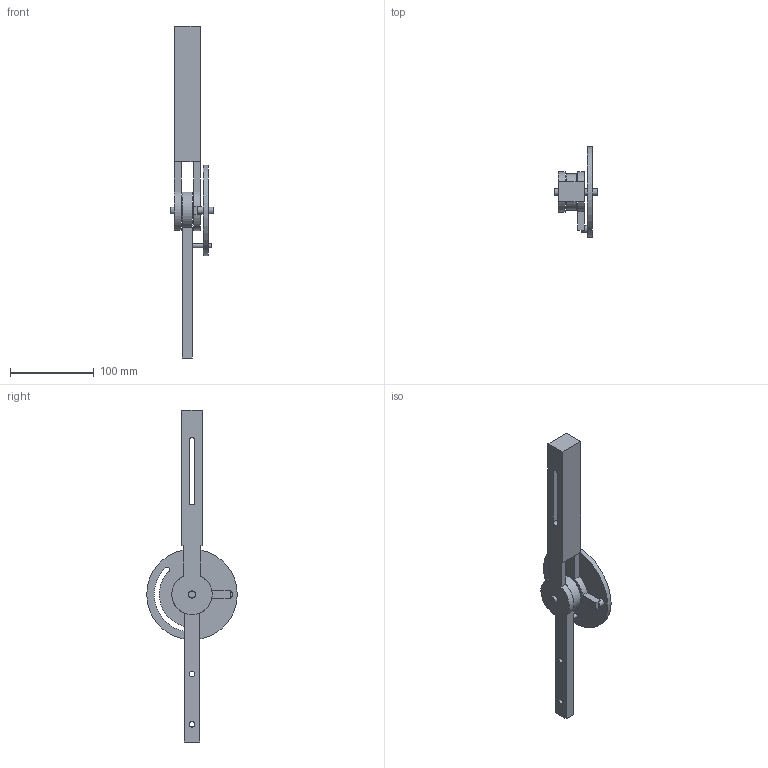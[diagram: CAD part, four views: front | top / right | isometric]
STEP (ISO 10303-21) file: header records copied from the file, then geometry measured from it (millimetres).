
FILE_DESCRIPTION(('Open CASCADE Model'),'2;1');
FILE_NAME('Open CASCADE Shape Model','2026-09-19T23:42:05',('Author'),( 'Open CASCADE'),'Open CASCADE STEP processor 7.9','Open CASCADE 7.9' ,'Unknown');
FILE_SCHEMA(('AUTOMOTIVE_DESIGN { 1 0 10303 214 1 1 1 1 }'));
Length unit declared in the file: millimetre
Products named in the file (6): BENCH_ONLY_NOT_WEARABLE; BENCH_UPPER_CLEVIS_AND_TRACK; BENCH_LOWER_TONGUE_AND_FOLLOWER; BENCH_8mm_GAUGE_PIN; BENCH_WASHER_R; BENCH_WASHER_L
Assembly tree (5 placements, depth 2):
  BENCH_ONLY_NOT_WEARABLE
    BENCH_UPPER_CLEVIS_AND_TRACK
    BENCH_LOWER_TONGUE_AND_FOLLOWER
    BENCH_8mm_GAUGE_PIN
    BENCH_WASHER_R
    BENCH_WASHER_L
Bounding box: 51 x 108 x 396 mm (x, y, z)
Volume: 243329.6 mm3; surface area: 73439.9 mm2
Topology: 5 solids, 5 shells, 144 faces, 396 edges, 264 vertices
Faces by surface type: plane 122, cylinder 22
Full cylindrical faces by diameter (mm): 5 x1, 6.6 x2, 8 x1, 8.6 x1, 8.7 x3, 8.8 x2, 17 x2, 38 x1, 108 x1
Entity records: 9413 total; most frequent: CARTESIAN_POINT 2031, DIRECTION 1125, ORIENTED_EDGE 792, PCURVE 792, DEFINITIONAL_REPRESENTATION 792, LINE 691, VECTOR 691, B_SPLINE_CURVE_WITH_KNOTS 405
